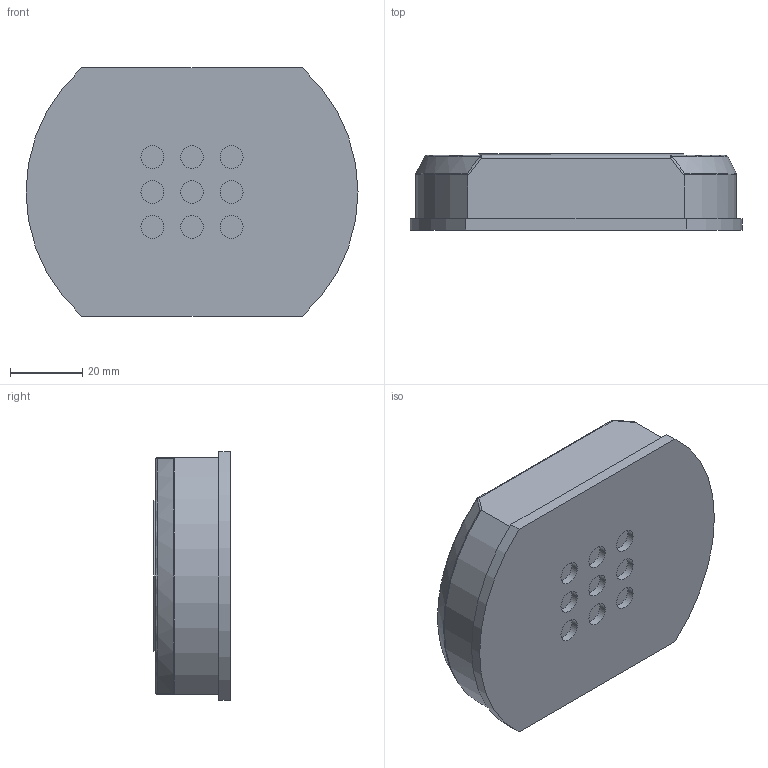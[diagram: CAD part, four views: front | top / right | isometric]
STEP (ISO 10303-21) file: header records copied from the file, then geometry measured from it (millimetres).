
FILE_DESCRIPTION(/* description */ ('STEP AP242 Edition 2','CAx-IF Rec.Pracs.---Representation and Presentation of Product Manufacturing Information (PMI)---4.0---2014-10-13','CAx-IF Rec.Pracs.---3D Tessellated Geometry---0.4---2014-09-14','2;1','CAx-IF Rec.Pracs.---User Defined Attributes---1.5---2016-08-15'),/* implementation_level */ '2;1');
FILE_NAME(/* name */ 'energy_shield_grenade - Part 3',/* time_stamp */ '2026-02-18T00:38:34Z',/* author */ (''),/* organization */ (''),/* preprocessor_version */ 'ST-DEVELOPER v20',/* originating_system */ 'ONSHAPE BY PTC INC, 1.210',/* authorisation */ ' ');
FILE_SCHEMA (('AP242_MANAGED_MODEL_BASED_3D_ENGINEERING_MIM_LF { 1 0 10303 442 3 1 4 }'));
Length unit declared in the file: metre
Products named in the file (1): Part 3
Bounding box: 91.67 x 21.14 x 68.53 mm (x, y, z)
Volume: 108079 mm3; surface area: 16970.8 mm2
Topology: 1 solids, 1 shells, 88 faces, 212 edges, 137 vertices
Faces by surface type: bspline 88
Entity records: 2935 total; most frequent: CARTESIAN_POINT 1024, ORIENTED_EDGE 416, DIRECTION 249, EDGE_CURVE 208, VERTEX_POINT 137, EDGE_LOOP 103, FACE_BOUND 103, LINE 93
